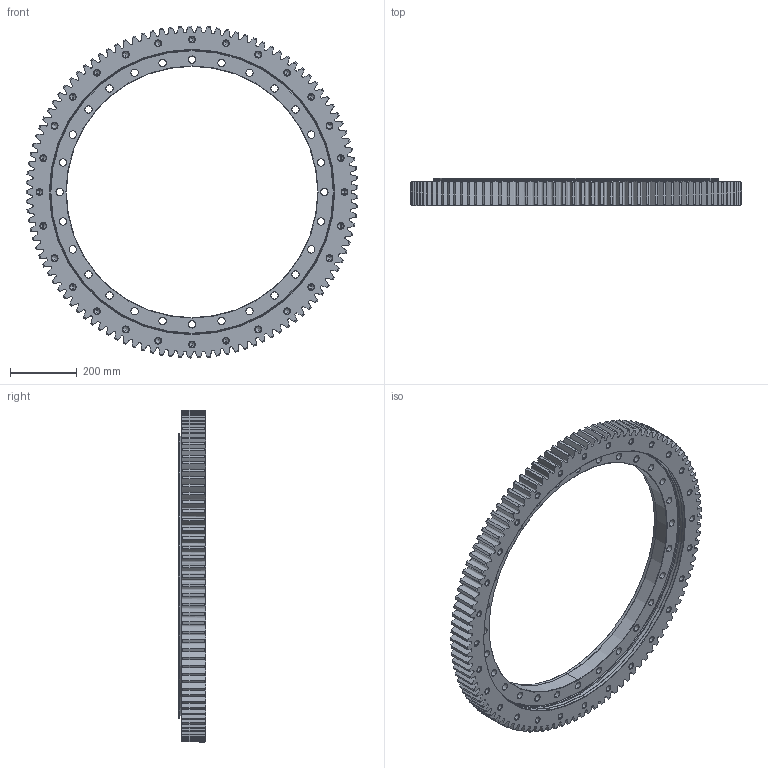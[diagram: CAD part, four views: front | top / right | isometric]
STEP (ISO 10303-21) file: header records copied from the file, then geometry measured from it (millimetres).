
FILE_DESCRIPTION (( 'STEP AP203' ), '1' );
FILE_NAME ('B2125-2-0997CA.STEP', '2021-03-19T08:52:12', ( '' ), ( '' ), 'SwSTEP 2.0', 'SolidWorks 2020', '' );
FILE_SCHEMA (( 'CONFIG_CONTROL_DESIGN' ));
Length unit declared in the file: millimetre
Products named in the file (1): B2125-2-0997CA
Bounding box: 996.89 x 82 x 996.98 mm (x, y, z)
Volume: 15078292.8 mm3; surface area: 1790312.7 mm2
Topology: 2 solids, 2 shells, 784 faces, 2114 edges, 1310 vertices
Faces by surface type: cone 402, cylinder 243, bspline 109, torus 22, plane 8
Entity records: 55175 total; most frequent: CARTESIAN_POINT 36526, ORIENTED_EDGE 4116, DIRECTION 3624, EDGE_CURVE 2058, AXIS2_PLACEMENT_3D 1544, VERTEX_POINT 1310, EDGE_LOOP 876, CIRCLE 868
